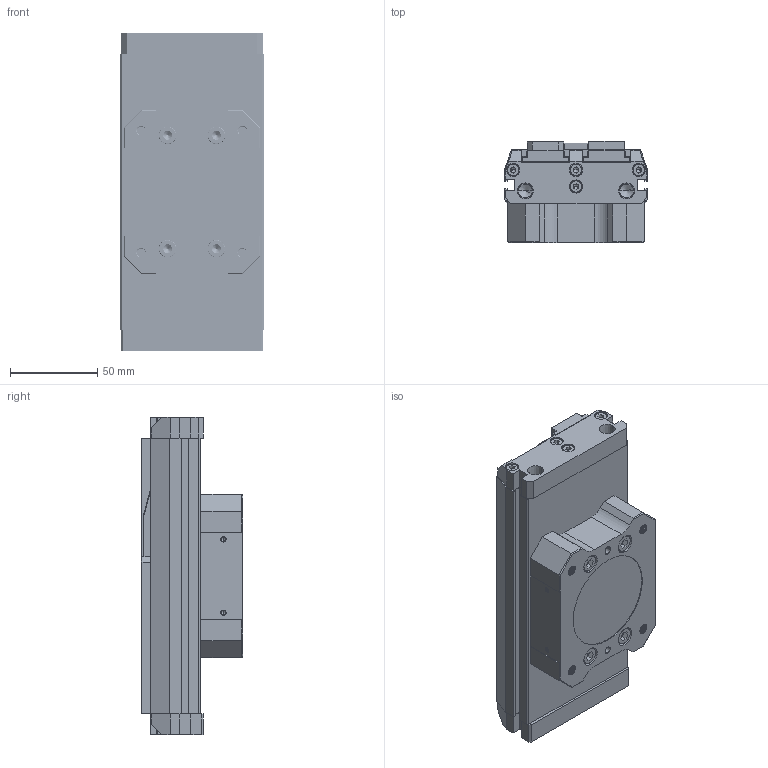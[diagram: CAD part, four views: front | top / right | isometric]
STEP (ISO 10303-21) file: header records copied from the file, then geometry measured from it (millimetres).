
FILE_DESCRIPTION (( 'STEP AP203' ), '1' );
FILE_NAME ('CHPS360-80.STEP', '2026-01-16T00:37:39', ( '' ), ( '' ), 'SwSTEP 2.0', 'SolidWorks 2024', '' );
FILE_SCHEMA (( 'CONFIG_CONTROL_DESIGN' ));
Length unit declared in the file: millimetre
Products named in the file (11): CHPS360-006; hexagon socket head cap screw_jis_JIS B 1176 M6 x 25 (25) --N; CHPS360-80_FINGER_ASM; CHPS360-80-001; CHPS360-003; CHPS360-002; CHPS360-80_BODY_ASM; CHPS360-80; CHPS360-80-005; hexagon socket head cap screw_jis_JIS B 1176 M4 x 12 (12) --N; CHPS360-004
Assembly tree (23 placements, depth 3):
  CHPS360-80
    CHPS360-80_BODY_ASM
      CHPS360-004
      CHPS360-80-001
      CHPS360-002
      CHPS360-003
      hexagon socket head cap screw_jis_JIS B 1176 M6 x 25 (25) --N  x4
      hexagon socket head cap screw_jis_JIS B 1176 M4 x 12 (12) --N  x8
    CHPS360-80_FINGER_ASM  x2
      CHPS360-80-005
      CHPS360-006
      hexagon socket head cap screw_jis_JIS B 1176 M4 x 12 (12) --N
Bounding box: 82 x 58 x 182 mm (x, y, z)
Volume: 573722.4 mm3; surface area: 125942.2 mm2
Topology: 24 solids, 24 shells, 1406 faces, 3549 edges, 2218 vertices
Faces by surface type: plane 593, cylinder 555, cone 148, torus 68, bspline 42
Entity records: 45276 total; most frequent: CARTESIAN_POINT 25718, ORIENTED_EDGE 4154, DIRECTION 3377, EDGE_CURVE 2077, VERTEX_POINT 1338, VECTOR 1159, LINE 1159, AXIS2_PLACEMENT_3D 1109
